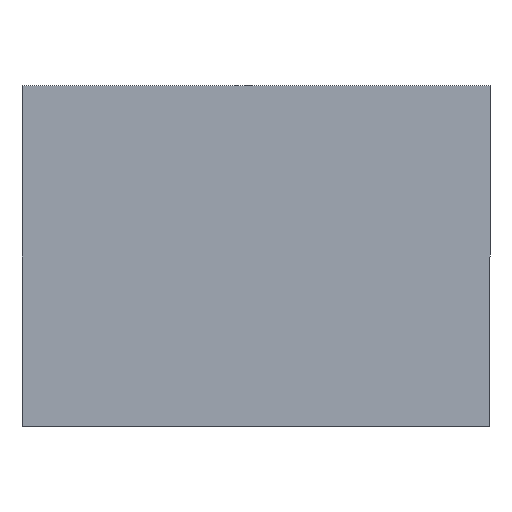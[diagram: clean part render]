
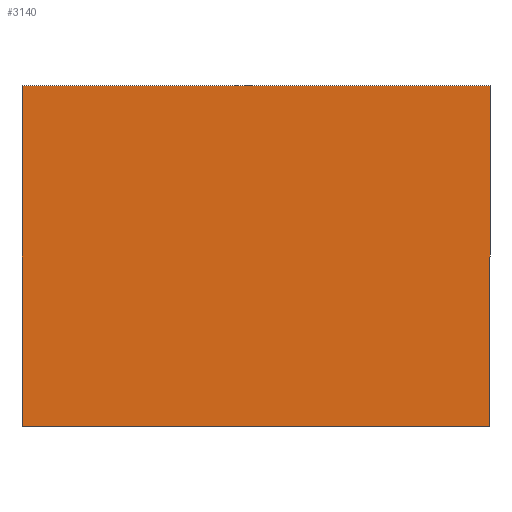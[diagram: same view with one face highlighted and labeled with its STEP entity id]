
A CAD part, front view. The second image highlights one B-rep face of the part: STEP entity #3140.
In plain terms, the highlighted planar face has unit normal (0, -1, 0).
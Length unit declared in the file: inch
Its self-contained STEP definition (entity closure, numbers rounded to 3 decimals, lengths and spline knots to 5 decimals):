
#200 = FACE_OUTER_BOUND ( 'NONE', #6606, .T. ) ;
#570 = CARTESIAN_POINT ( 'NONE',  ( -18.32387, -11.95, 13.32387 ) ) ;
#968 = EDGE_CURVE ( 'NONE', #1066, #3947, #11494, .T. ) ;
#1066 = VERTEX_POINT ( 'NONE', #3863 ) ;
#1186 = CARTESIAN_POINT ( 'NONE',  ( -18.32387, -11.95, -13.32387 ) ) ;
#1289 = ORIENTED_EDGE ( 'NONE', *, *, #8084, .F. ) ;
#1995 = CARTESIAN_POINT ( 'NONE',  ( 11.98, -11.95, -7.22 ) ) ;
#2252 = DIRECTION ( 'NONE',  ( 0., 0., 1. ) ) ;
#2756 = LINE ( 'NONE', #3884, #6690 ) ;
#3140 = ADVANCED_FACE ( 'NONE', ( #200 ), #4783, .T. ) ;
#3315 = CARTESIAN_POINT ( 'NONE',  ( 18.32387, -11.95, -13.32387 ) ) ;
#3377 = LINE ( 'NONE', #1186, #13164 ) ;
#3863 = CARTESIAN_POINT ( 'NONE',  ( 18.32387, -11.95, 13.32387 ) ) ;
#3884 = CARTESIAN_POINT ( 'NONE',  ( -18.32387, -11.95, -13.32387 ) ) ;
#3947 = VERTEX_POINT ( 'NONE', #3315 ) ;
#3961 = DIRECTION ( 'NONE',  ( 1., 0., 0. ) ) ;
#4783 = PLANE ( 'NONE',  #9710 ) ;
#5065 = DIRECTION ( 'NONE',  ( 0., -1., 0. ) ) ;
#5397 = CARTESIAN_POINT ( 'NONE',  ( -18.32387, -11.95, -13.32387 ) ) ;
#6009 = LINE ( 'NONE', #570, #12478 ) ;
#6514 = VERTEX_POINT ( 'NONE', #11106 ) ;
#6606 = EDGE_LOOP ( 'NONE', ( #1289, #11256, #12413, #11137 ) ) ;
#6690 = VECTOR ( 'NONE', #10662, 39.37008 ) ;
#8084 = EDGE_CURVE ( 'NONE', #10122, #6514, #3377, .T. ) ;
#9353 = EDGE_CURVE ( 'NONE', #3947, #10122, #2756, .T. ) ;
#9710 = AXIS2_PLACEMENT_3D ( 'NONE', #1995, #5065, #14347 ) ;
#10122 = VERTEX_POINT ( 'NONE', #5397 ) ;
#10276 = CARTESIAN_POINT ( 'NONE',  ( 18.32387, -11.95, -13.32387 ) ) ;
#10662 = DIRECTION ( 'NONE',  ( -1., 0., 0. ) ) ;
#11106 = CARTESIAN_POINT ( 'NONE',  ( -18.32387, -11.95, 13.32387 ) ) ;
#11137 = ORIENTED_EDGE ( 'NONE', *, *, #12853, .F. ) ;
#11256 = ORIENTED_EDGE ( 'NONE', *, *, #9353, .F. ) ;
#11494 = LINE ( 'NONE', #10276, #13371 ) ;
#12413 = ORIENTED_EDGE ( 'NONE', *, *, #968, .F. ) ;
#12478 = VECTOR ( 'NONE', #3961, 39.37008 ) ;
#12786 = DIRECTION ( 'NONE',  ( 0., 0., -1. ) ) ;
#12853 = EDGE_CURVE ( 'NONE', #6514, #1066, #6009, .T. ) ;
#13164 = VECTOR ( 'NONE', #2252, 39.37008 ) ;
#13371 = VECTOR ( 'NONE', #12786, 39.37008 ) ;
#14347 = DIRECTION ( 'NONE',  ( 0., 0., -1. ) ) ;
